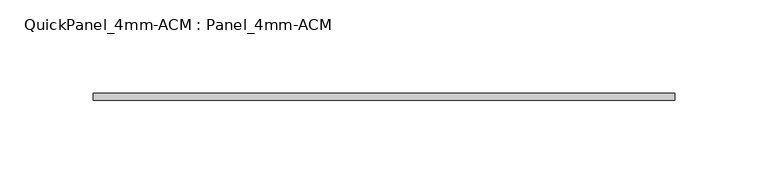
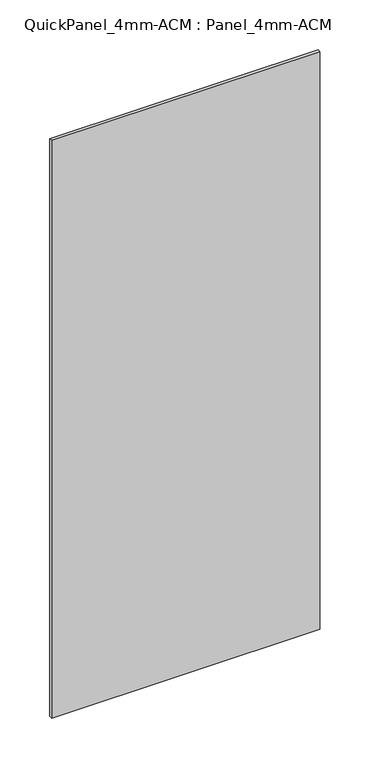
"""IFC4 building model written with IfcOpenShell, lengths in millimetres: plate geometry, QuickPanel_4mm-ACM : Panel_4mm-ACM."""

from ifc_helpers import new_model, si_unit, origin, origin_with_axes, place, context, project, spatial, polyline, outline, extrude, source, transform, mapped, element, save


def quickpanel_4mm_acm_panel_4mm_acm_3087cd6a(model_context):
    return source(origin(), model_context, "Body", "SweptSolid", [
        extrude(outline(polyline([(-155.9412714, -6.096), (155.9412714, -6.096), (155.9412714, -9.906), (-155.9412714, -9.906), (-155.9412714, -6.096)])), origin_with_axes(), (0.0, 0.0, 1.0), 710.1039948),
    ])


if __name__ == "__main__":
    model = new_model("IFC4")
    model_context = context("Model", 3, world=origin())
    ifc_project = project(units=[si_unit("LENGTHUNIT", "METRE", prefix="MILLI")], contexts=[model_context])
    site = spatial("IfcSite", under=ifc_project)
    building = spatial("IfcBuilding", under=site)
    placement = place(None, origin())
    quickpanel_4mm_acm_panel_4mm_acm_shape = quickpanel_4mm_acm_panel_4mm_acm_3087cd6a(model_context)
    element("IfcPlate", 1, ObjectType="QuickPanel_4mm-ACM : Panel_4mm-ACM", at=placement, inside=building, context=model_context, shape_type="MappedRepresentation", body=[
        mapped(quickpanel_4mm_acm_panel_4mm_acm_shape, transform((0.0, 0.0, 0.0), x_axis=(1.0, 0.0, 0.0), y_axis=(0.0, 1.0, 0.0), z_axis=(0.0, 0.0, 1.0))),
    ])
    save(model, "model.ifc")
